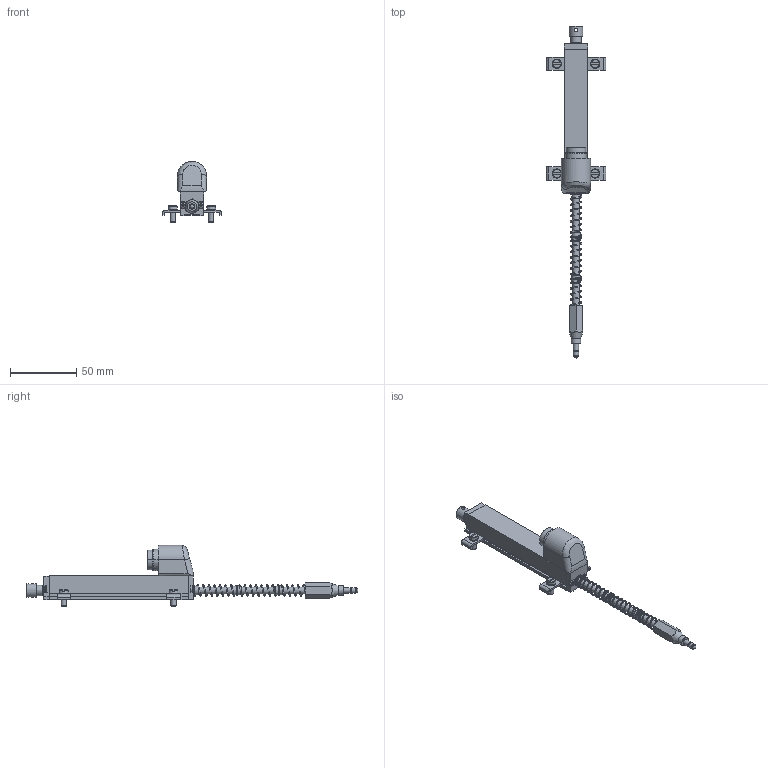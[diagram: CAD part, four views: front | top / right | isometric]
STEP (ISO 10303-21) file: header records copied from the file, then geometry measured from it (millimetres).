
FILE_DESCRIPTION( ( 'Unknown' ), '1' );
FILE_NAME( 'P:/Fertigung_TTS/2_TTS/1_CAD-Daten/4_Handelsware/3_Linearpotentiometer/LRW2_LRW3/4_Step/LRW2-C-75.stp', 'Unknown', ( 'WayCon' ), ( 'WayCon Positionsmesstechnik' ), 'PSStep 17.0.49', 'Unknown', ' ' );
FILE_SCHEMA( ( 'AUTOMOTIVE_DESIGN { 1 0 10303 214 1 1 1 1 }' ) );
Length unit declared in the file: millimetre
Products named in the file (37): MIM600X; MIM892X_ISO 1207 - M4 x 10 --- 10S; BUS023X; Molla PY compressa MIM401X_Posizione Lavoro; TES053X; BUS015X; BUS022X; TAS000X_Assemblato; MIM828X_ISO 7045 - M2.5 x 8 - Z --- 8S; STA029X; MIM510X_DIN 6905-3.6-FSt; PUN001X; CUS046X; 1; TES049X; CON010X
Bounding box: 45 x 250.99 x 46.3 mm (x, y, z)
Volume: 1169.1 mm3; surface area: 24797.4 mm2
Topology: 10 solids, 374 shells, 446 faces, 1924 edges, 1809 vertices
Faces by surface type: plane 263, cylinder 100, cone 49, torus 20, sphere 10, bspline 4
Full cylindrical faces by diameter (mm): 2.5 x2, 3.2 x1, 3.8 x2, 4 x10, 4.3 x4, 5 x5, 5.1 x4, 6.3 x6, 7 x2, 7.8 x4, 8 x1, 8.5 x1, 10 x1, 20.2 x1
Entity records: 27935 total; most frequent: CARTESIAN_POINT 9515, DIRECTION 3170, ORIENTED_EDGE 1898, EDGE_CURVE 1780, VERTEX_POINT 1763, AXIS2_PLACEMENT_3D 1159, LINE 852, VECTOR 852
